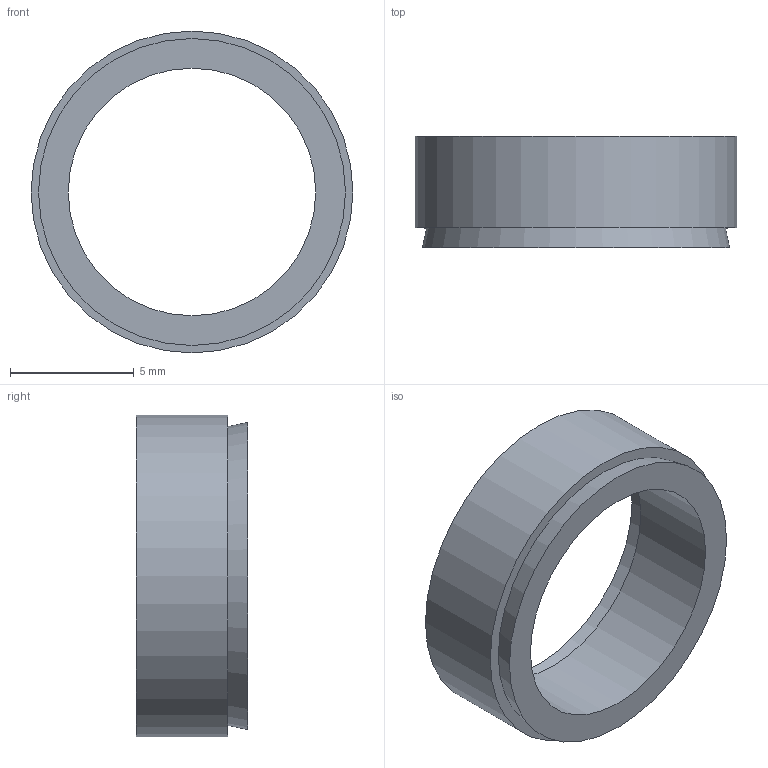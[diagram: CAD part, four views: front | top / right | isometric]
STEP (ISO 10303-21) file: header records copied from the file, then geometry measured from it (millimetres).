
FILE_DESCRIPTION( ( 'Unknown' ), '1' );
FILE_NAME( 'C:/Dokumente und Einstellungen/Sven/Desktop/homepage/cad - homepage/KBS50/KBS 50 - 10 x 13.stp', 'Unknown', ( 'Unknown' ), ( 'Unknown' ), 'XStep 1.0', 'Unknown', ' ' );
FILE_SCHEMA( ( 'automotive_design' ) );
Length unit declared in the file: millimetre
Products named in the file (1): 1
Bounding box: 13 x 4.5 x 13 mm (x, y, z)
Volume: 221.9 mm3; surface area: 446.2 mm2
Topology: 1 solids, 1 shells, 8 faces, 12 edges, 8 vertices
Faces by surface type: plane 4, cylinder 2, cone 2
Full cylindrical faces by diameter (mm): 10 x1, 13 x1
Entity records: 248 total; most frequent: DIRECTION 34, CARTESIAN_POINT 25, AXIS2_PLACEMENT_3D 17, EDGE_LOOP 16, ORIENTED_EDGE 16, FACE_OUTER_BOUND 10, STYLED_ITEM 8, PRESENTATION_STYLE_ASSIGNMENT 8
